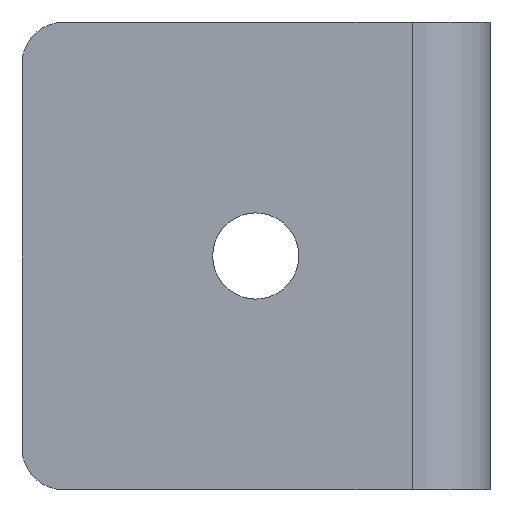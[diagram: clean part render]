
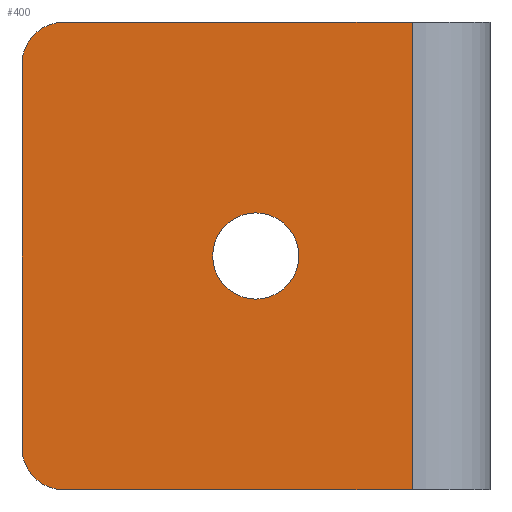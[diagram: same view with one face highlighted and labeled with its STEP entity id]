
A CAD part, left-side view. The second image highlights one B-rep face of the part: STEP entity #400.
In plain terms, the highlighted planar face has unit normal (-1, 0, 0).
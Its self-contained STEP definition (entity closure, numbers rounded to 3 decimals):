
#15 = FACE_BOUND ( 'NONE', #598, .T. ) ;
#22 = FACE_OUTER_BOUND ( 'NONE', #124, .T. ) ;
#26 = DIRECTION ( 'NONE',  ( 0., 0., -1. ) ) ;
#32 = EDGE_CURVE ( 'NONE', #342, #114, #569, .T. ) ;
#39 = DIRECTION ( 'NONE',  ( 0., 0., 1. ) ) ;
#54 = CARTESIAN_POINT ( 'NONE',  ( -4.849, 17.549, 0. ) ) ;
#62 = ORIENTED_EDGE ( 'NONE', *, *, #243, .T. ) ;
#76 = EDGE_CURVE ( 'NONE', #236, #680, #93, .T. ) ;
#88 = CARTESIAN_POINT ( 'NONE',  ( -4.849, 17.549, 4.15 ) ) ;
#93 = LINE ( 'NONE', #469, #320 ) ;
#95 = AXIS2_PLACEMENT_3D ( 'NONE', #301, #411, #39 ) ;
#97 = CARTESIAN_POINT ( 'NONE',  ( -4.849, 40.049, 22.5 ) ) ;
#105 = LINE ( 'NONE', #644, #164 ) ;
#108 = CIRCLE ( 'NONE', #541, 4. ) ;
#114 = VERTEX_POINT ( 'NONE', #463 ) ;
#124 = EDGE_LOOP ( 'NONE', ( #364, #179, #521, #154, #546, #163 ) ) ;
#135 = VECTOR ( 'NONE', #26, 1000. ) ;
#154 = ORIENTED_EDGE ( 'NONE', *, *, #32, .T. ) ;
#156 = DIRECTION ( 'NONE',  ( 1., 0., 0. ) ) ;
#163 = ORIENTED_EDGE ( 'NONE', *, *, #649, .T. ) ;
#164 = VECTOR ( 'NONE', #628, 1000. ) ;
#165 = CARTESIAN_POINT ( 'NONE',  ( -4.849, 2.5, -22.5 ) ) ;
#167 = DIRECTION ( 'NONE',  ( 1., 0., 0. ) ) ;
#179 = ORIENTED_EDGE ( 'NONE', *, *, #613, .F. ) ;
#180 = CIRCLE ( 'NONE', #617, 4.15 ) ;
#189 = CARTESIAN_POINT ( 'NONE',  ( -4.849, 36.049, -22.5 ) ) ;
#192 = VERTEX_POINT ( 'NONE', #266 ) ;
#202 = EDGE_CURVE ( 'NONE', #245, #420, #180, .T. ) ;
#236 = VERTEX_POINT ( 'NONE', #523 ) ;
#243 = EDGE_CURVE ( 'NONE', #420, #245, #630, .T. ) ;
#245 = VERTEX_POINT ( 'NONE', #479 ) ;
#261 = AXIS2_PLACEMENT_3D ( 'NONE', #54, #156, #374 ) ;
#266 = CARTESIAN_POINT ( 'NONE',  ( -4.849, 36.049, 22.5 ) ) ;
#289 = CARTESIAN_POINT ( 'NONE',  ( -4.849, 40.049, 18.5 ) ) ;
#301 = CARTESIAN_POINT ( 'NONE',  ( -4.849, 36.049, 18.5 ) ) ;
#320 = VECTOR ( 'NONE', #360, 1000. ) ;
#342 = VERTEX_POINT ( 'NONE', #289 ) ;
#360 = DIRECTION ( 'NONE',  ( 0., 0., -1. ) ) ;
#364 = ORIENTED_EDGE ( 'NONE', *, *, #76, .F. ) ;
#373 = LINE ( 'NONE', #97, #398 ) ;
#374 = DIRECTION ( 'NONE',  ( 0., 0., 1. ) ) ;
#398 = VECTOR ( 'NONE', #639, 1000. ) ;
#400 = ADVANCED_FACE ( 'NONE', ( #22, #15 ), #658, .F. ) ;
#403 = DIRECTION ( 'NONE',  ( -1., 0., 0. ) ) ;
#410 = CIRCLE ( 'NONE', #95, 4. ) ;
#411 = DIRECTION ( 'NONE',  ( -1., 0., 0. ) ) ;
#420 = VERTEX_POINT ( 'NONE', #88 ) ;
#441 = DIRECTION ( 'NONE',  ( 1., 0., 0. ) ) ;
#461 = VERTEX_POINT ( 'NONE', #189 ) ;
#463 = CARTESIAN_POINT ( 'NONE',  ( -4.849, 40.049, -18.5 ) ) ;
#469 = CARTESIAN_POINT ( 'NONE',  ( -4.849, 2.5, 22.5 ) ) ;
#471 = EDGE_CURVE ( 'NONE', #192, #342, #410, .T. ) ;
#479 = CARTESIAN_POINT ( 'NONE',  ( -4.849, 17.549, -4.15 ) ) ;
#480 = EDGE_CURVE ( 'NONE', #114, #461, #108, .T. ) ;
#492 = CARTESIAN_POINT ( 'NONE',  ( -4.849, 40.049, 22.5 ) ) ;
#521 = ORIENTED_EDGE ( 'NONE', *, *, #471, .T. ) ;
#523 = CARTESIAN_POINT ( 'NONE',  ( -4.849, 2.5, 22.5 ) ) ;
#541 = AXIS2_PLACEMENT_3D ( 'NONE', #615, #403, #611 ) ;
#546 = ORIENTED_EDGE ( 'NONE', *, *, #480, .T. ) ;
#569 = LINE ( 'NONE', #572, #135 ) ;
#572 = CARTESIAN_POINT ( 'NONE',  ( -4.849, 40.049, 22.5 ) ) ;
#582 = CARTESIAN_POINT ( 'NONE',  ( -4.849, 17.549, 0. ) ) ;
#598 = EDGE_LOOP ( 'NONE', ( #623, #62 ) ) ;
#606 = AXIS2_PLACEMENT_3D ( 'NONE', #492, #441, #651 ) ;
#611 = DIRECTION ( 'NONE',  ( 0., 0., 1. ) ) ;
#613 = EDGE_CURVE ( 'NONE', #192, #236, #373, .T. ) ;
#615 = CARTESIAN_POINT ( 'NONE',  ( -4.849, 36.049, -18.5 ) ) ;
#617 = AXIS2_PLACEMENT_3D ( 'NONE', #582, #167, #648 ) ;
#623 = ORIENTED_EDGE ( 'NONE', *, *, #202, .T. ) ;
#628 = DIRECTION ( 'NONE',  ( 0., -1., 0. ) ) ;
#630 = CIRCLE ( 'NONE', #261, 4.15 ) ;
#639 = DIRECTION ( 'NONE',  ( 0., -1., 0. ) ) ;
#644 = CARTESIAN_POINT ( 'NONE',  ( -4.849, 40.049, -22.5 ) ) ;
#648 = DIRECTION ( 'NONE',  ( 0., 0., 1. ) ) ;
#649 = EDGE_CURVE ( 'NONE', #461, #680, #105, .T. ) ;
#651 = DIRECTION ( 'NONE',  ( 0., 0., 1. ) ) ;
#658 = PLANE ( 'NONE',  #606 ) ;
#680 = VERTEX_POINT ( 'NONE', #165 ) ;
